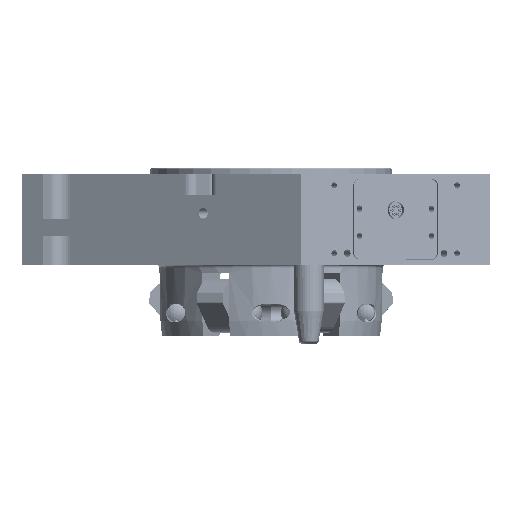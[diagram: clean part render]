
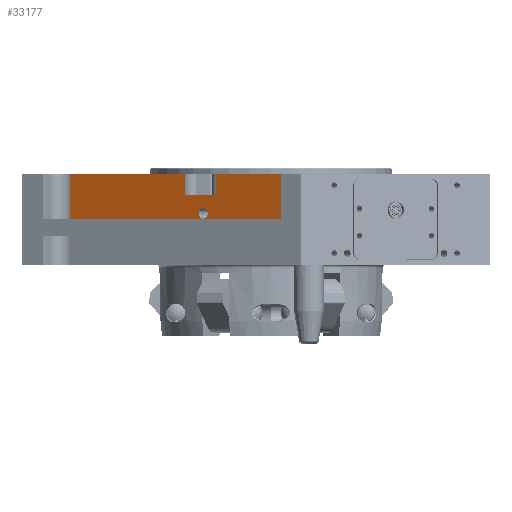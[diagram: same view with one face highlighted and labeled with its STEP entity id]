
A CAD part, top view. The second image highlights one B-rep face of the part: STEP entity #33177.
In plain terms, the highlighted planar face has unit normal (-0.5, 0, 0.866).
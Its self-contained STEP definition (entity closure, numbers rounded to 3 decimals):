
#631 = CARTESIAN_POINT ( 'NONE',  ( -36.317, 0., 123.37 ) ) ;
#4260 = ORIENTED_EDGE ( 'NONE', *, *, #99998, .F. ) ;
#6585 = VERTEX_POINT ( 'NONE', #53584 ) ;
#7597 = VECTOR ( 'NONE', #72328, 1000. ) ;
#7910 = ORIENTED_EDGE ( 'NONE', *, *, #58416, .F. ) ;
#8168 = CARTESIAN_POINT ( 'NONE',  ( -133.081, 0., 67.503 ) ) ;
#8687 = VECTOR ( 'NONE', #161755, 1000. ) ;
#8692 = CARTESIAN_POINT ( 'NONE',  ( -36.317, 16., 123.37 ) ) ;
#9860 = AXIS2_PLACEMENT_3D ( 'NONE', #53769, #158471, #72194 ) ;
#21206 = FACE_OUTER_BOUND ( 'NONE', #61910, .T. ) ;
#21619 = LINE ( 'NONE', #113505, #8687 ) ;
#23712 = ORIENTED_EDGE ( 'NONE', *, *, #47031, .F. ) ;
#25323 = ORIENTED_EDGE ( 'NONE', *, *, #161403, .F. ) ;
#29735 = AXIS2_PLACEMENT_3D ( 'NONE', #180646, #46297, #108572 ) ;
#33177 = ADVANCED_FACE ( 'NONE', ( #42566, #21206 ), #192656, .F. ) ;
#40479 = DIRECTION ( 'NONE',  ( 0.866, 0., 0.5 ) ) ;
#42566 = FACE_BOUND ( 'NONE', #58472, .T. ) ;
#43140 = DIRECTION ( 'NONE',  ( 0., 1., 0. ) ) ;
#45915 = DIRECTION ( 'NONE',  ( 0., 1., 0. ) ) ;
#46297 = DIRECTION ( 'NONE',  ( -0.5, 0., 0.866 ) ) ;
#46814 = VECTOR ( 'NONE', #69949, 1000. ) ;
#46895 = CARTESIAN_POINT ( 'NONE',  ( -133.081, 30., 67.503 ) ) ;
#47031 = EDGE_CURVE ( 'NONE', #143458, #124415, #52415, .T. ) ;
#52415 = LINE ( 'NONE', #161943, #88564 ) ;
#53584 = CARTESIAN_POINT ( 'NONE',  ( -57.102, 30., 111.37 ) ) ;
#53769 = CARTESIAN_POINT ( 'NONE',  ( -133.081, 0., 67.503 ) ) ;
#57549 = LINE ( 'NONE', #8168, #7597 ) ;
#58356 = ORIENTED_EDGE ( 'NONE', *, *, #151993, .T. ) ;
#58416 = EDGE_CURVE ( 'NONE', #134184, #70141, #57549, .T. ) ;
#58472 = EDGE_LOOP ( 'NONE', ( #4260 ) ) ;
#60634 = VECTOR ( 'NONE', #45915, 1000. ) ;
#60947 = DIRECTION ( 'NONE',  ( 0., -1., 0. ) ) ;
#61910 = EDGE_LOOP ( 'NONE', ( #122040, #23712, #174395, #153292, #25323, #7910, #89161, #58356 ) ) ;
#69949 = DIRECTION ( 'NONE',  ( -0.866, 0., -0.5 ) ) ;
#70141 = VERTEX_POINT ( 'NONE', #147612 ) ;
#70610 = CARTESIAN_POINT ( 'NONE',  ( 8.081, 0., 149.003 ) ) ;
#71887 = CARTESIAN_POINT ( 'NONE',  ( -133.081, 30., 67.503 ) ) ;
#72194 = DIRECTION ( 'NONE',  ( -0.866, 0., -0.5 ) ) ;
#72328 = DIRECTION ( 'NONE',  ( -0.866, 0., -0.5 ) ) ;
#76720 = CARTESIAN_POINT ( 'NONE',  ( 8.081, 0., 149.003 ) ) ;
#88564 = VECTOR ( 'NONE', #40479, 1000. ) ;
#88685 = LINE ( 'NONE', #71887, #46814 ) ;
#89161 = ORIENTED_EDGE ( 'NONE', *, *, #177357, .T. ) ;
#92088 = CARTESIAN_POINT ( 'NONE',  ( -36.317, 30., 123.37 ) ) ;
#99998 = EDGE_CURVE ( 'NONE', #166280, #166280, #121329, .T. ) ;
#104956 = EDGE_CURVE ( 'NONE', #143458, #6585, #21619, .T. ) ;
#107099 = CARTESIAN_POINT ( 'NONE',  ( -41.947, 4., 120.12 ) ) ;
#108572 = DIRECTION ( 'NONE',  ( 0.866, 0., 0.5 ) ) ;
#112928 = EDGE_CURVE ( 'NONE', #6585, #178290, #88685, .T. ) ;
#113505 = CARTESIAN_POINT ( 'NONE',  ( -57.102, 0., 111.37 ) ) ;
#121329 = CIRCLE ( 'NONE', #29735, 3.5 ) ;
#122040 = ORIENTED_EDGE ( 'NONE', *, *, #154925, .T. ) ;
#122977 = CARTESIAN_POINT ( 'NONE',  ( -133.081, 0., 67.503 ) ) ;
#124415 = VERTEX_POINT ( 'NONE', #8692 ) ;
#134184 = VERTEX_POINT ( 'NONE', #70610 ) ;
#134979 = VECTOR ( 'NONE', #60947, 1000. ) ;
#136340 = DIRECTION ( 'NONE',  ( -0.866, 0., -0.5 ) ) ;
#143458 = VERTEX_POINT ( 'NONE', #191165 ) ;
#147612 = CARTESIAN_POINT ( 'NONE',  ( -133.081, 0., 67.503 ) ) ;
#150858 = LINE ( 'NONE', #631, #134979 ) ;
#151993 = EDGE_CURVE ( 'NONE', #157399, #178565, #165924, .T. ) ;
#153292 = ORIENTED_EDGE ( 'NONE', *, *, #112928, .T. ) ;
#154925 = EDGE_CURVE ( 'NONE', #178565, #124415, #150858, .T. ) ;
#157399 = VERTEX_POINT ( 'NONE', #166498 ) ;
#158471 = DIRECTION ( 'NONE',  ( 0.5, 0., -0.866 ) ) ;
#161403 = EDGE_CURVE ( 'NONE', #70141, #178290, #181211, .T. ) ;
#161755 = DIRECTION ( 'NONE',  ( 0., 1., 0. ) ) ;
#161943 = CARTESIAN_POINT ( 'NONE',  ( -41.514, 16., 120.37 ) ) ;
#165594 = LINE ( 'NONE', #76720, #193617 ) ;
#165924 = LINE ( 'NONE', #180765, #169410 ) ;
#166280 = VERTEX_POINT ( 'NONE', #107099 ) ;
#166498 = CARTESIAN_POINT ( 'NONE',  ( 8.081, 30., 149.003 ) ) ;
#169410 = VECTOR ( 'NONE', #136340, 1000. ) ;
#174395 = ORIENTED_EDGE ( 'NONE', *, *, #104956, .T. ) ;
#177357 = EDGE_CURVE ( 'NONE', #134184, #157399, #165594, .T. ) ;
#178290 = VERTEX_POINT ( 'NONE', #46895 ) ;
#178565 = VERTEX_POINT ( 'NONE', #92088 ) ;
#180646 = CARTESIAN_POINT ( 'NONE',  ( -44.978, 4., 118.37 ) ) ;
#180765 = CARTESIAN_POINT ( 'NONE',  ( -133.081, 30., 67.503 ) ) ;
#181211 = LINE ( 'NONE', #122977, #60634 ) ;
#191165 = CARTESIAN_POINT ( 'NONE',  ( -57.102, 16., 111.37 ) ) ;
#192656 = PLANE ( 'NONE',  #9860 ) ;
#193617 = VECTOR ( 'NONE', #43140, 1000. ) ;
